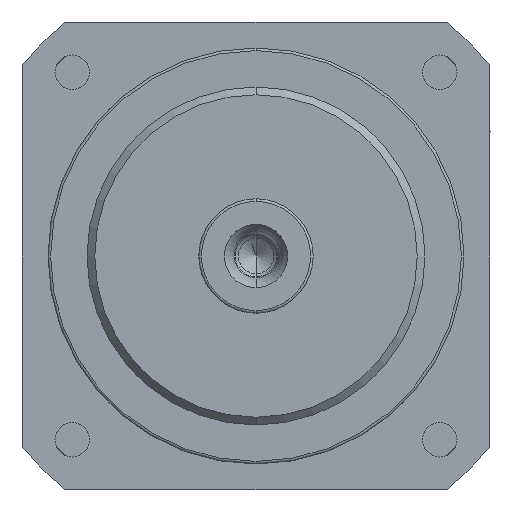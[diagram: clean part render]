
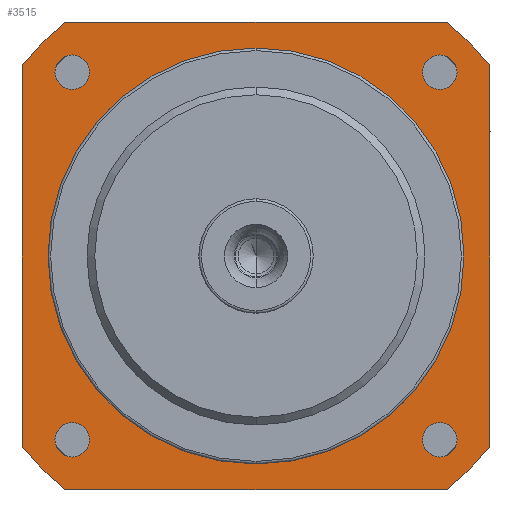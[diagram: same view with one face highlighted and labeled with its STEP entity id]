
A CAD part, left-side view. The second image highlights one B-rep face of the part: STEP entity #3515.
In plain terms, the highlighted planar face has unit normal (-1, 0, 0) as drawn and (0, 0, -1) by its records, which use the part's own axes.
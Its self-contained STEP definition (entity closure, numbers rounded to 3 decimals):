
#2489=CARTESIAN_POINT('',(35.355,-35.355,0.));
#2490=DIRECTION('',(0.,0.,1.));
#2491=DIRECTION('',(1.,0.,0.));
#2492=AXIS2_PLACEMENT_3D('',#2489,#2490,#2491);
#2494=CARTESIAN_POINT('',(35.355,-35.355,0.));
#2495=DIRECTION('',(0.,0.,1.));
#2496=DIRECTION('',(-1.,0.,0.));
#2497=AXIS2_PLACEMENT_3D('',#2494,#2495,#2496);
#2499=CARTESIAN_POINT('',(-35.355,-35.355,0.));
#2500=DIRECTION('',(0.,0.,1.));
#2501=DIRECTION('',(1.,0.,0.));
#2502=AXIS2_PLACEMENT_3D('',#2499,#2500,#2501);
#2504=CARTESIAN_POINT('',(-35.355,-35.355,0.));
#2505=DIRECTION('',(0.,0.,1.));
#2506=DIRECTION('',(-1.,0.,0.));
#2507=AXIS2_PLACEMENT_3D('',#2504,#2505,#2506);
#2509=CARTESIAN_POINT('',(-35.355,35.355,0.));
#2510=DIRECTION('',(0.,0.,1.));
#2511=DIRECTION('',(1.,0.,0.));
#2512=AXIS2_PLACEMENT_3D('',#2509,#2510,#2511);
#2514=CARTESIAN_POINT('',(-35.355,35.355,0.));
#2515=DIRECTION('',(0.,0.,1.));
#2516=DIRECTION('',(-1.,0.,0.));
#2517=AXIS2_PLACEMENT_3D('',#2514,#2515,#2516);
#2519=CARTESIAN_POINT('',(0.,0.,0.));
#2520=DIRECTION('',(0.,0.,1.));
#2521=DIRECTION('',(-0.776,-0.631,0.));
#2522=AXIS2_PLACEMENT_3D('',#2519,#2520,#2521);
#2524=DIRECTION('',(1.,0.,0.));
#2525=VECTOR('',#2524,73.185);
#2526=CARTESIAN_POINT('',(-36.592,-45.,0.));
#2527=LINE('',#2526,#2525);
#2528=CARTESIAN_POINT('',(0.,0.,0.));
#2529=DIRECTION('',(0.,0.,1.));
#2530=DIRECTION('',(0.631,-0.776,0.));
#2531=AXIS2_PLACEMENT_3D('',#2528,#2529,#2530);
#2533=DIRECTION('',(0.,1.,0.));
#2534=VECTOR('',#2533,73.185);
#2535=CARTESIAN_POINT('',(45.,-36.592,0.));
#2536=LINE('',#2535,#2534);
#2537=CARTESIAN_POINT('',(0.,0.,0.));
#2538=DIRECTION('',(0.,0.,1.));
#2539=DIRECTION('',(0.776,0.631,0.));
#2540=AXIS2_PLACEMENT_3D('',#2537,#2538,#2539);
#2542=DIRECTION('',(-1.,0.,0.));
#2543=VECTOR('',#2542,73.185);
#2544=CARTESIAN_POINT('',(36.592,45.,0.));
#2545=LINE('',#2544,#2543);
#2546=CARTESIAN_POINT('',(0.,0.,0.));
#2547=DIRECTION('',(0.,0.,1.));
#2548=DIRECTION('',(-0.631,0.776,0.));
#2549=AXIS2_PLACEMENT_3D('',#2546,#2547,#2548);
#2551=DIRECTION('',(0.,-1.,0.));
#2552=VECTOR('',#2551,73.185);
#2553=CARTESIAN_POINT('',(-45.,36.592,0.));
#2554=LINE('',#2553,#2552);
#2555=CARTESIAN_POINT('',(0.,0.,0.));
#2556=DIRECTION('',(0.,0.,1.));
#2557=DIRECTION('',(0.,-1.,0.));
#2558=AXIS2_PLACEMENT_3D('',#2555,#2556,#2557);
#2560=CARTESIAN_POINT('',(0.,0.,0.));
#2561=DIRECTION('',(0.,0.,1.));
#2562=DIRECTION('',(0.,1.,0.));
#2563=AXIS2_PLACEMENT_3D('',#2560,#2561,#2562);
#2565=CARTESIAN_POINT('',(35.355,35.355,0.));
#2566=DIRECTION('',(0.,0.,1.));
#2567=DIRECTION('',(1.,0.,0.));
#2568=AXIS2_PLACEMENT_3D('',#2565,#2566,#2567);
#2570=CARTESIAN_POINT('',(35.355,35.355,0.));
#2571=DIRECTION('',(0.,0.,1.));
#2572=DIRECTION('',(-1.,0.,0.));
#2573=AXIS2_PLACEMENT_3D('',#2570,#2571,#2572);
#3261=CARTESIAN_POINT('',(-45.,-36.592,0.));
#3262=CARTESIAN_POINT('',(-36.592,-45.,0.));
#3263=VERTEX_POINT('',#3261);
#3264=VERTEX_POINT('',#3262);
#3265=CARTESIAN_POINT('',(36.592,-45.,0.));
#3266=VERTEX_POINT('',#3265);
#3267=CARTESIAN_POINT('',(45.,-36.592,0.));
#3268=VERTEX_POINT('',#3267);
#3269=CARTESIAN_POINT('',(45.,36.592,0.));
#3270=VERTEX_POINT('',#3269);
#3271=CARTESIAN_POINT('',(36.592,45.,0.));
#3272=VERTEX_POINT('',#3271);
#3273=CARTESIAN_POINT('',(-36.592,45.,0.));
#3274=VERTEX_POINT('',#3273);
#3275=CARTESIAN_POINT('',(-45.,36.592,0.));
#3276=VERTEX_POINT('',#3275);
#3277=CARTESIAN_POINT('',(0.,-40.,0.));
#3278=CARTESIAN_POINT('',(0.,40.,0.));
#3279=VERTEX_POINT('',#3277);
#3280=VERTEX_POINT('',#3278);
#3393=CARTESIAN_POINT('',(38.655,35.355,0.));
#3394=CARTESIAN_POINT('',(32.055,35.355,0.));
#3395=VERTEX_POINT('',#3393);
#3396=VERTEX_POINT('',#3394);
#3401=CARTESIAN_POINT('',(-32.055,35.355,0.));
#3402=CARTESIAN_POINT('',(-38.655,35.355,0.));
#3403=VERTEX_POINT('',#3401);
#3404=VERTEX_POINT('',#3402);
#3409=CARTESIAN_POINT('',(-32.055,-35.355,0.));
#3410=CARTESIAN_POINT('',(-38.655,-35.355,0.));
#3411=VERTEX_POINT('',#3409);
#3412=VERTEX_POINT('',#3410);
#3417=CARTESIAN_POINT('',(38.655,-35.355,0.));
#3418=CARTESIAN_POINT('',(32.055,-35.355,0.));
#3419=VERTEX_POINT('',#3417);
#3420=VERTEX_POINT('',#3418);
#3463=CARTESIAN_POINT('',(0.,0.,0.));
#3464=DIRECTION('',(0.,0.,1.));
#3465=DIRECTION('',(0.,1.,0.));
#3466=AXIS2_PLACEMENT_3D('',#3463,#3464,#3465);
#3467=PLANE('',#3466);
#3469=ORIENTED_EDGE('',*,*,#3468,.T.);
#3471=ORIENTED_EDGE('',*,*,#3470,.T.);
#3473=ORIENTED_EDGE('',*,*,#3472,.T.);
#3475=ORIENTED_EDGE('',*,*,#3474,.T.);
#3477=ORIENTED_EDGE('',*,*,#3476,.T.);
#3479=ORIENTED_EDGE('',*,*,#3478,.T.);
#3481=ORIENTED_EDGE('',*,*,#3480,.T.);
#3483=ORIENTED_EDGE('',*,*,#3482,.T.);
#3484=EDGE_LOOP('',(#3469,#3471,#3473,#3475,#3477,#3479,#3481,#3483));
#3485=FACE_OUTER_BOUND('',#3484,.F.);
#3487=ORIENTED_EDGE('',*,*,#3486,.F.);
#3489=ORIENTED_EDGE('',*,*,#3488,.F.);
#3490=EDGE_LOOP('',(#3487,#3489));
#3491=FACE_BOUND('',#3490,.F.);
#3493=ORIENTED_EDGE('',*,*,#3492,.F.);
#3495=ORIENTED_EDGE('',*,*,#3494,.F.);
#3496=EDGE_LOOP('',(#3493,#3495));
#3497=FACE_BOUND('',#3496,.F.);
#3499=ORIENTED_EDGE('',*,*,#3498,.F.);
#3501=ORIENTED_EDGE('',*,*,#3500,.F.);
#3502=EDGE_LOOP('',(#3499,#3501));
#3503=FACE_BOUND('',#3502,.F.);
#3504=ORIENTED_EDGE('',*,*,#3452,.F.);
#3506=ORIENTED_EDGE('',*,*,#3505,.F.);
#3507=EDGE_LOOP('',(#3504,#3506));
#3508=FACE_BOUND('',#3507,.F.);
#3510=ORIENTED_EDGE('',*,*,#3509,.F.);
#3512=ORIENTED_EDGE('',*,*,#3511,.F.);
#3513=EDGE_LOOP('',(#3510,#3512));
#3514=FACE_BOUND('',#3513,.F.);
#3515=ADVANCED_FACE('',(#3485,#3491,#3497,#3503,#3508,#3514),#3467,.F.);
#2493=CIRCLE('',#2492,3.3);
#2498=CIRCLE('',#2497,3.3);
#2503=CIRCLE('',#2502,3.3);
#2508=CIRCLE('',#2507,3.3);
#2513=CIRCLE('',#2512,3.3);
#2518=CIRCLE('',#2517,3.3);
#2523=CIRCLE('',#2522,58.);
#2532=CIRCLE('',#2531,58.);
#2541=CIRCLE('',#2540,58.);
#2550=CIRCLE('',#2549,58.);
#2559=CIRCLE('',#2558,40.);
#2564=CIRCLE('',#2563,40.);
#2569=CIRCLE('',#2568,3.3);
#2574=CIRCLE('',#2573,3.3);
#3452=EDGE_CURVE('',#3279,#3280,#2559,.T.);
#3468=EDGE_CURVE('',#3263,#3264,#2523,.T.);
#3470=EDGE_CURVE('',#3264,#3266,#2527,.T.);
#3472=EDGE_CURVE('',#3266,#3268,#2532,.T.);
#3474=EDGE_CURVE('',#3268,#3270,#2536,.T.);
#3476=EDGE_CURVE('',#3270,#3272,#2541,.T.);
#3478=EDGE_CURVE('',#3272,#3274,#2545,.T.);
#3480=EDGE_CURVE('',#3274,#3276,#2550,.T.);
#3482=EDGE_CURVE('',#3276,#3263,#2554,.T.);
#3486=EDGE_CURVE('',#3411,#3412,#2503,.T.);
#3488=EDGE_CURVE('',#3412,#3411,#2508,.T.);
#3492=EDGE_CURVE('',#3403,#3404,#2513,.T.);
#3494=EDGE_CURVE('',#3404,#3403,#2518,.T.);
#3498=EDGE_CURVE('',#3419,#3420,#2493,.T.);
#3500=EDGE_CURVE('',#3420,#3419,#2498,.T.);
#3505=EDGE_CURVE('',#3280,#3279,#2564,.T.);
#3509=EDGE_CURVE('',#3395,#3396,#2569,.T.);
#3511=EDGE_CURVE('',#3396,#3395,#2574,.T.);
